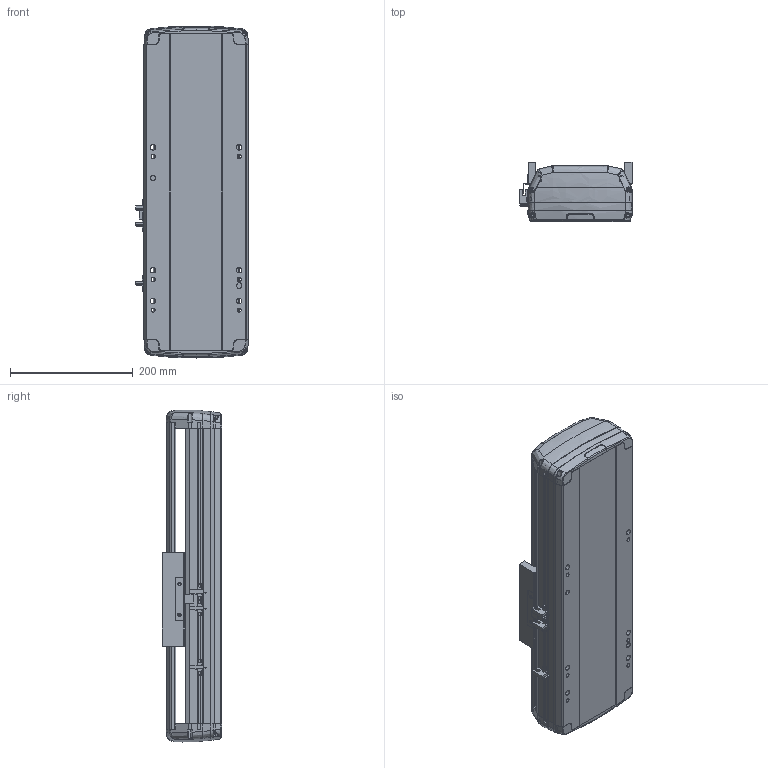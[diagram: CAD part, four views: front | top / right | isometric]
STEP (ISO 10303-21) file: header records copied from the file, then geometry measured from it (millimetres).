
FILE_DESCRIPTION (( 'STEP AP214' ), '1' );
FILE_NAME ('RTH17-XX-100-B-M40B-C4.STEP', '2025-10-24T09:12:28', ( '' ), ( '' ), 'SwSTEP 2.0', 'SolidWorks 2018', '' );
FILE_SCHEMA (( 'AUTOMOTIVE_DESIGN' ));
Length unit declared in the file: millimetre
Products named in the file (7): N_RTH17-M-007B上盖^RTH17-XX-XX-B-M40B-C4（方程式）; RTH17-XX-100-B-M40B-C4; N_RTH17-GY-001P^RTH17-XX-XX-B-M40B-C4（方程式）; N_RTH-L-012 感应片(外置)^RTH17-XX-XX-B-M40B-C4（方程式）; N_RTH17-E-004丝杆螺母连接座^RTH17-XX-XX-B-M40B-C4（方程式）; N_RTH17-M-011B底座^RTH17-XX-XX-B-M40B-C4（方程式）; N_OMRON EE-SX672 換覜ん^RTH17-XX-XX-B-M40B-C4ㄗ源最宒ㄘ
Assembly tree (9 placements, depth 2):
  RTH17-XX-100-B-M40B-C4
    N_RTH17-M-011B底座^RTH17-XX-XX-B-M40B-C4（方程式）
    N_RTH17-M-007B上盖^RTH17-XX-XX-B-M40B-C4（方程式）
    N_OMRON EE-SX672 換覜ん^RTH17-XX-XX-B-M40B-C4ㄗ源最宒ㄘ  x3
    N_RTH-L-012 感应片(外置)^RTH17-XX-XX-B-M40B-C4（方程式）
    N_RTH17-E-004丝杆螺母连接座^RTH17-XX-XX-B-M40B-C4（方程式）
    N_RTH17-GY-001P^RTH17-XX-XX-B-M40B-C4（方程式）  x2
Bounding box: 183.5 x 97 x 540.04 mm (x, y, z)
Volume: 4230250.7 mm3; surface area: 653783.8 mm2
Topology: 7 solids, 11 shells, 1688 faces, 4718 edges, 3062 vertices
Faces by surface type: plane 805, bspline 420, cylinder 417, cone 28, torus 18
Entity records: 38742 total; most frequent: CARTESIAN_POINT 16281, ORIENTED_EDGE 4940, DIRECTION 3886, EDGE_CURVE 2474, VERTEX_POINT 1616, VECTOR 1382, LINE 1382, AXIS2_PLACEMENT_3D 1252
